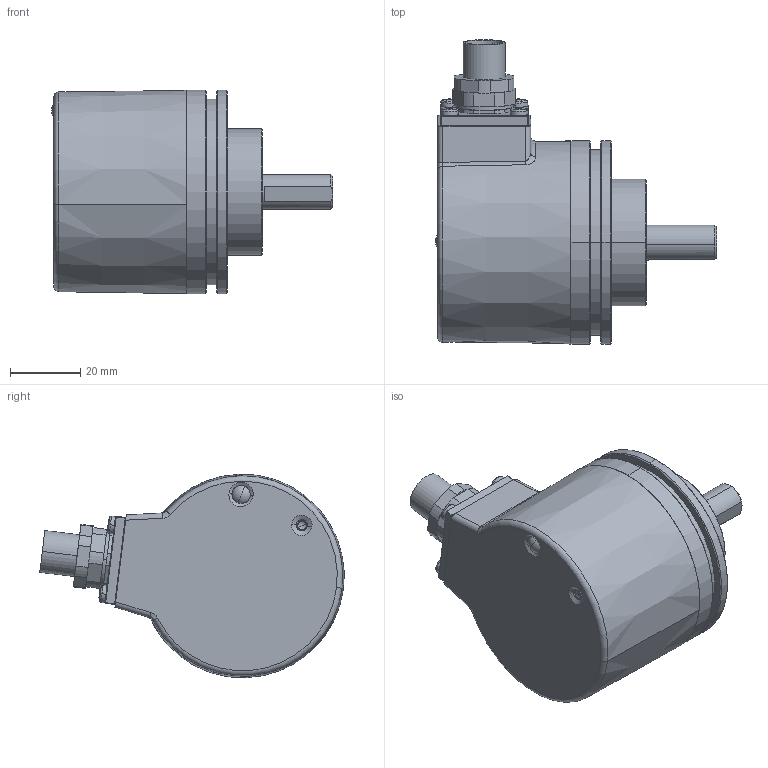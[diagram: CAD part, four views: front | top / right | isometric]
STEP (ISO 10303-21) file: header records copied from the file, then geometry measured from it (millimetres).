
FILE_DESCRIPTION (( 'STEP AP203' ), '1' );
FILE_NAME ('8.F5868.322E.2123.STEP', '2014-02-10T13:12:59', ( 'HeirlerN' ), ( 'Microsoft' ), 'SwSTEP 2.0', 'SolidWorks 2013', '' );
FILE_SCHEMA (( 'CONFIG_CONTROL_DESIGN' ));
Length unit declared in the file: millimetre
Products named in the file (1): 8.F5868.322E.2123
Bounding box: 80.15 x 86.8 x 58 mm (x, y, z)
Volume: 70026 mm3; surface area: 47895.7 mm2
Topology: 13 solids, 13 shells, 892 faces, 2131 edges, 1280 vertices
Faces by surface type: cylinder 283, plane 255, cone 180, torus 106, bspline 36, sphere 32
Entity records: 27199 total; most frequent: CARTESIAN_POINT 6709, DIRECTION 4566, ORIENTED_EDGE 4078, EDGE_CURVE 2039, AXIS2_PLACEMENT_3D 1888, VERTEX_POINT 1250, CIRCLE 1031, EDGE_LOOP 1007
